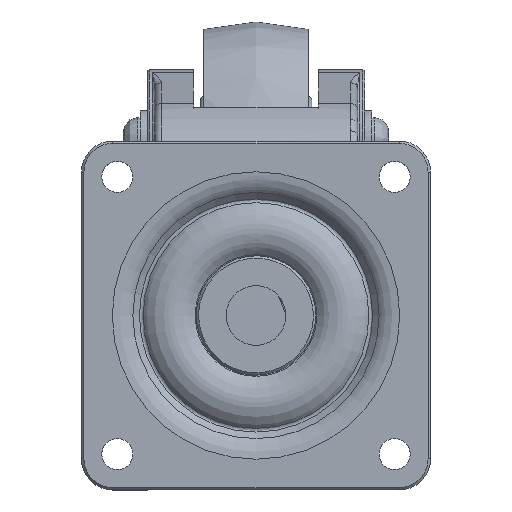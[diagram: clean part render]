
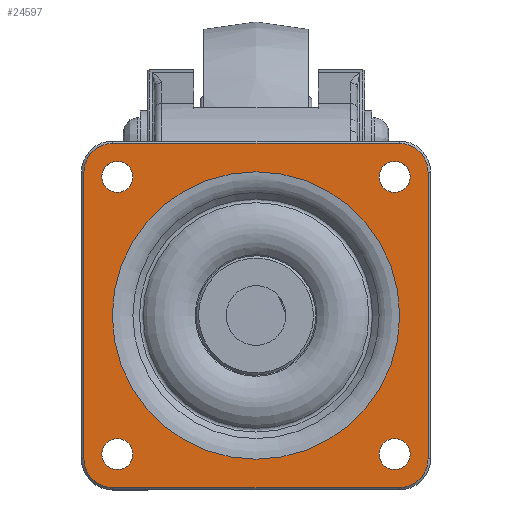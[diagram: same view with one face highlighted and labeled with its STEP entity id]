
A CAD part, top view. The second image highlights one B-rep face of the part: STEP entity #24597.
In plain terms, the highlighted planar face has unit normal (0, 0, 1) by its records, which use the part's own axes.
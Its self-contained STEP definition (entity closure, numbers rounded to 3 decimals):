
#23800=CARTESIAN_POINT('',(-39.48,-28.391,73.273));
#23801=VERTEX_POINT('',#23800);
#23802=CARTESIAN_POINT('',(-36.23,-28.391,73.273));
#23803=DIRECTION('',(0.0,0.0,-1.0));
#23804=DIRECTION('',(-1.0,0.0,0.0));
#23805=AXIS2_PLACEMENT_3D('',#23802,#23803,#23804);
#23806=CIRCLE('',#23805,3.25);
#23807=EDGE_CURVE('',#23801,#23801,#23806,.T.);
#23828=CARTESIAN_POINT('',(-97.48,-28.391,73.273));
#23829=VERTEX_POINT('',#23828);
#23830=CARTESIAN_POINT('',(-94.23,-28.391,73.273));
#23831=DIRECTION('',(0.0,0.0,-1.0));
#23832=DIRECTION('',(-1.0,0.0,0.0));
#23833=AXIS2_PLACEMENT_3D('',#23830,#23831,#23832);
#23834=CIRCLE('',#23833,3.25);
#23835=EDGE_CURVE('',#23829,#23829,#23834,.T.);
#23856=CARTESIAN_POINT('',(-97.48,29.609,73.273));
#23857=VERTEX_POINT('',#23856);
#23858=CARTESIAN_POINT('',(-94.23,29.609,73.273));
#23859=DIRECTION('',(0.0,0.0,-1.0));
#23860=DIRECTION('',(-1.0,0.0,0.0));
#23861=AXIS2_PLACEMENT_3D('',#23858,#23859,#23860);
#23862=CIRCLE('',#23861,3.25);
#23863=EDGE_CURVE('',#23857,#23857,#23862,.T.);
#24281=CARTESIAN_POINT('',(-35.23,36.609,73.273));
#24282=VERTEX_POINT('',#24281);
#24289=CARTESIAN_POINT('',(-29.23,30.609,73.273));
#24290=VERTEX_POINT('',#24289);
#24291=CARTESIAN_POINT('',(-35.23,30.609,73.273));
#24292=DIRECTION('',(0.0,0.0,-1.));
#24293=DIRECTION('',(0.707,0.707,0.0));
#24294=AXIS2_PLACEMENT_3D('',#24291,#24292,#24293);
#24295=CIRCLE('',#24294,6.);
#24296=EDGE_CURVE('',#24282,#24290,#24295,.T.);
#24315=CARTESIAN_POINT('',(-95.23,36.609,73.273));
#24316=VERTEX_POINT('',#24315);
#24323=CARTESIAN_POINT('',(-95.23,36.609,73.273));
#24324=DIRECTION('',(1.0,0.0,0.0));
#24325=VECTOR('',#24324,60.);
#24326=LINE('',#24323,#24325);
#24327=EDGE_CURVE('',#24316,#24282,#24326,.T.);
#24344=CARTESIAN_POINT('',(-29.23,-29.391,73.273));
#24345=VERTEX_POINT('',#24344);
#24354=CARTESIAN_POINT('',(-29.23,30.609,73.273));
#24355=DIRECTION('',(0.0,-1.0,0.0));
#24356=VECTOR('',#24355,60.);
#24357=LINE('',#24354,#24356);
#24358=EDGE_CURVE('',#24290,#24345,#24357,.T.);
#24370=CARTESIAN_POINT('',(-101.23,30.609,73.273));
#24371=VERTEX_POINT('',#24370);
#24378=CARTESIAN_POINT('',(-95.23,30.609,73.273));
#24379=DIRECTION('',(0.0,0.0,-1.));
#24380=DIRECTION('',(-0.707,0.707,0.0));
#24381=AXIS2_PLACEMENT_3D('',#24378,#24379,#24380);
#24382=CIRCLE('',#24381,6.);
#24383=EDGE_CURVE('',#24371,#24316,#24382,.T.);
#24401=CARTESIAN_POINT('',(-35.23,-35.391,73.273));
#24402=VERTEX_POINT('',#24401);
#24411=CARTESIAN_POINT('',(-35.23,-29.391,73.273));
#24412=DIRECTION('',(0.0,0.0,-1.));
#24413=DIRECTION('',(0.707,-0.707,0.0));
#24414=AXIS2_PLACEMENT_3D('',#24411,#24412,#24413);
#24415=CIRCLE('',#24414,6.);
#24416=EDGE_CURVE('',#24345,#24402,#24415,.T.);
#24428=CARTESIAN_POINT('',(-101.23,-29.391,73.273));
#24429=VERTEX_POINT('',#24428);
#24436=CARTESIAN_POINT('',(-101.23,-29.391,73.273));
#24437=DIRECTION('',(0.0,1.0,0.0));
#24438=VECTOR('',#24437,60.0);
#24439=LINE('',#24436,#24438);
#24440=EDGE_CURVE('',#24429,#24371,#24439,.T.);
#24457=CARTESIAN_POINT('',(-95.23,-35.391,73.273));
#24458=VERTEX_POINT('',#24457);
#24467=CARTESIAN_POINT('',(-35.23,-35.391,73.273));
#24468=DIRECTION('',(-1.0,0.0,0.0));
#24469=VECTOR('',#24468,60.);
#24470=LINE('',#24467,#24469);
#24471=EDGE_CURVE('',#24402,#24458,#24470,.T.);
#24490=CARTESIAN_POINT('',(-95.23,-29.391,73.273));
#24491=DIRECTION('',(0.0,0.0,-1.));
#24492=DIRECTION('',(-0.707,-0.707,0.0));
#24493=AXIS2_PLACEMENT_3D('',#24490,#24491,#24492);
#24494=CIRCLE('',#24493,6.);
#24495=EDGE_CURVE('',#24458,#24429,#24494,.T.);
#24551=CARTESIAN_POINT('',(-65.23,43.654,73.273));
#24552=DIRECTION('',(0.0,0.0,1.0));
#24553=DIRECTION('',(1.0,0.0,0.0));
#24554=AXIS2_PLACEMENT_3D('',#24551,#24552,#24553);
#24555=PLANE('',#24554);
#24556=ORIENTED_EDGE('',*,*,#24296,.F.);
#24557=ORIENTED_EDGE('',*,*,#24327,.F.);
#24558=ORIENTED_EDGE('',*,*,#24383,.F.);
#24559=ORIENTED_EDGE('',*,*,#24440,.F.);
#24560=ORIENTED_EDGE('',*,*,#24495,.F.);
#24561=ORIENTED_EDGE('',*,*,#24471,.F.);
#24562=ORIENTED_EDGE('',*,*,#24416,.F.);
#24563=ORIENTED_EDGE('',*,*,#24358,.F.);
#24564=EDGE_LOOP('',(#24556,#24557,#24558,#24559,#24560,#24561,#24562,#24563));
#24565=FACE_OUTER_BOUND('',#24564,.T.);
#24566=ORIENTED_EDGE('',*,*,#23807,.T.);
#24567=EDGE_LOOP('',(#24566));
#24568=FACE_BOUND('',#24567,.T.);
#24569=ORIENTED_EDGE('',*,*,#23835,.T.);
#24570=EDGE_LOOP('',(#24569));
#24571=FACE_BOUND('',#24570,.T.);
#24572=ORIENTED_EDGE('',*,*,#23863,.T.);
#24573=EDGE_LOOP('',(#24572));
#24574=FACE_BOUND('',#24573,.T.);
#24575=CARTESIAN_POINT('',(-65.23,30.676,73.273));
#24576=VERTEX_POINT('',#24575);
#24577=CARTESIAN_POINT('',(-65.23,0.609,73.273));
#24578=DIRECTION('',(0.0,0.0,1.0));
#24579=DIRECTION('',(0.0,1.0,0.0));
#24580=AXIS2_PLACEMENT_3D('',#24577,#24578,#24579);
#24581=CIRCLE('',#24580,30.067);
#24582=EDGE_CURVE('',#24576,#24576,#24581,.T.);
#24583=ORIENTED_EDGE('',*,*,#24582,.F.);
#24584=EDGE_LOOP('',(#24583));
#24585=FACE_BOUND('',#24584,.T.);
#24586=CARTESIAN_POINT('',(-39.48,29.609,73.273));
#24587=VERTEX_POINT('',#24586);
#24588=CARTESIAN_POINT('',(-36.23,29.609,73.273));
#24589=DIRECTION('',(0.0,0.0,-1.0));
#24590=DIRECTION('',(-1.0,0.0,0.0));
#24591=AXIS2_PLACEMENT_3D('',#24588,#24589,#24590);
#24592=CIRCLE('',#24591,3.25);
#24593=EDGE_CURVE('',#24587,#24587,#24592,.T.);
#24594=ORIENTED_EDGE('',*,*,#24593,.T.);
#24595=EDGE_LOOP('',(#24594));
#24596=FACE_BOUND('',#24595,.T.);
#24597=ADVANCED_FACE('',(#24565,#24568,#24571,#24574,#24585,#24596),#24555,.T.);
